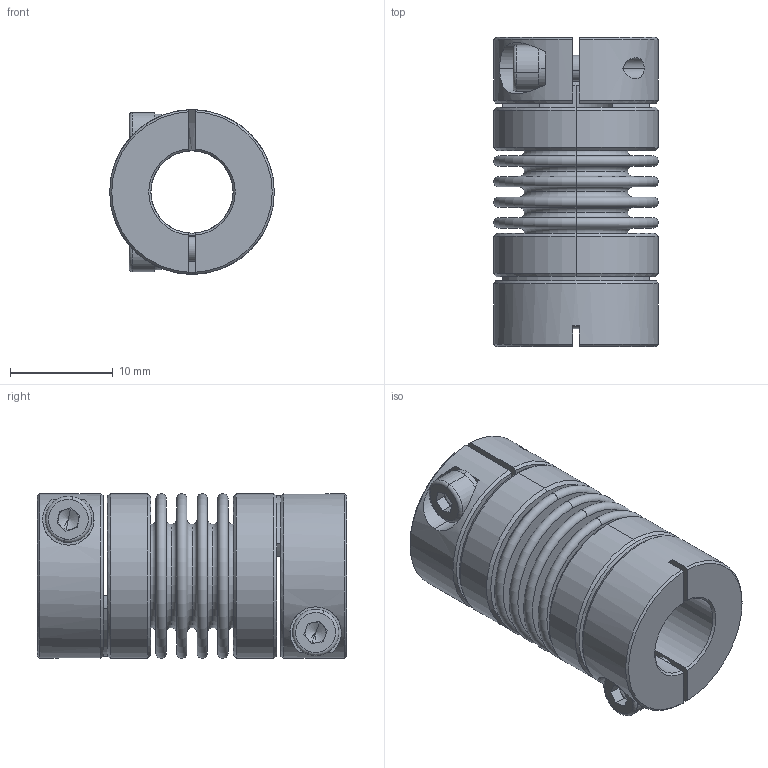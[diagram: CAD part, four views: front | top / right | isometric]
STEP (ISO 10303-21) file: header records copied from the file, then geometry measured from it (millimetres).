
FILE_DESCRIPTION (( 'STEP AP203' ), '1' );
FILE_NAME ('LB-B-D16L30-8-8.STEP', '2021-11-04T01:16:17', ( '' ), ( '' ), 'SwSTEP 2.0', 'SolidWorks 2018', '' );
FILE_SCHEMA (( 'CONFIG_CONTROL_DESIGN' ));
Length unit declared in the file: millimetre
Products named in the file (2): 零件1^LB-B-D16L30 波纹管联轴器-组装体; LB-B-D16L30-8-8
Assembly tree (1 placements, depth 2):
  LB-B-D16L30-8-8
    零件1^LB-B-D16L30 波纹管联轴器-组装体
Bounding box: 16 x 30.04 x 16 mm (x, y, z)
Volume: 2738.3 mm3; surface area: 6364.6 mm2
Topology: 1 solids, 1 shells, 254 faces, 586 edges, 362 vertices
Faces by surface type: plane 86, torus 68, cylinder 66, cone 34
Entity records: 7660 total; most frequent: CARTESIAN_POINT 1472, DIRECTION 1420, ORIENTED_EDGE 1164, AXIS2_PLACEMENT_3D 622, EDGE_CURVE 582, CIRCLE 364, VERTEX_POINT 362, EDGE_LOOP 296
